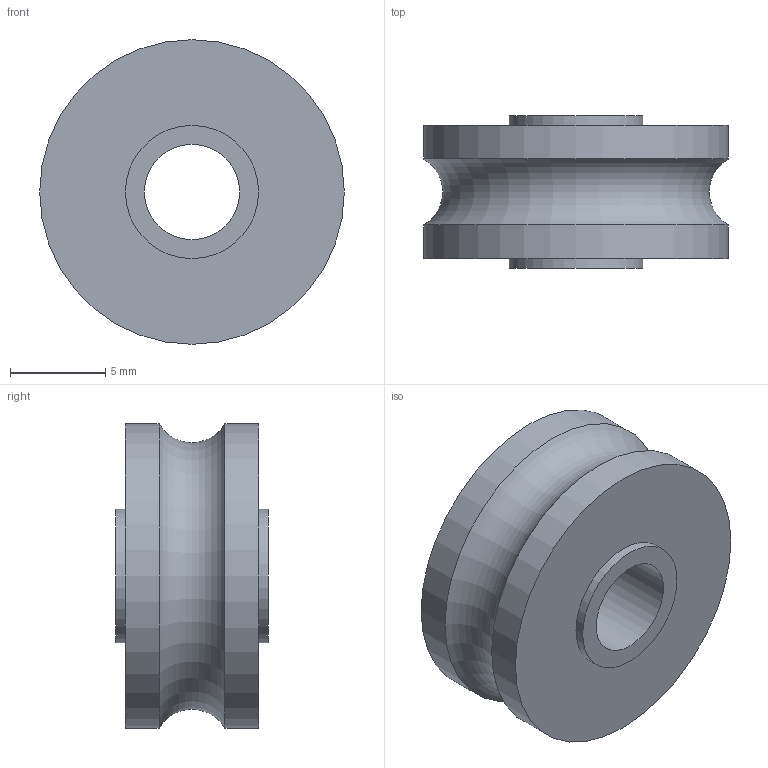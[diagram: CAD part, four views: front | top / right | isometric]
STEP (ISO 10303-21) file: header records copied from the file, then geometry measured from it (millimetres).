
FILE_DESCRIPTION (( 'STEP AP214' ), '1' );
FILE_NAME ('LFR50／5KDD-4.STEP', '2020-05-12T01:48:24', ( '' ), ( '' ), 'SwSTEP 2.0', 'SolidWorks 2019', '' );
FILE_SCHEMA (( 'AUTOMOTIVE_DESIGN' ));
Length unit declared in the file: millimetre
Products named in the file (1): LFR50／5KDD-4
Bounding box: 16 x 8 x 16 mm (x, y, z)
Volume: 1171.7 mm3; surface area: 881.6 mm2
Topology: 1 solids, 1 shells, 10 faces, 16 edges, 10 vertices
Faces by surface type: cylinder 5, plane 4, torus 1
Full cylindrical faces by diameter (mm): 5 x1, 7 x2, 16 x2
Entity records: 242 total; most frequent: DIRECTION 42, CARTESIAN_POINT 31, AXIS2_PLACEMENT_3D 21, EDGE_LOOP 20, ORIENTED_EDGE 20, FACE_OUTER_BOUND 16, ADVANCED_FACE 10, CIRCLE 10
